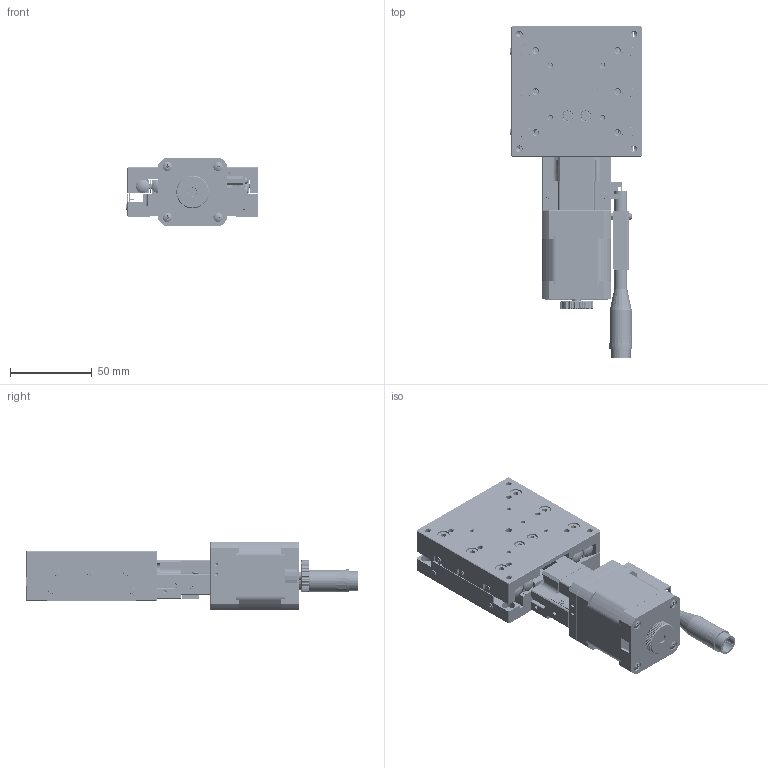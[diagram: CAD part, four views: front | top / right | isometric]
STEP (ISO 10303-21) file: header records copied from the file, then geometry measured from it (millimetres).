
FILE_DESCRIPTION (( 'STEP AP214' ), '1' );
FILE_NAME ('TXA8030B-L2-M42R.STEP', '2025-01-03T10:57:27', ( '' ), ( '' ), 'SwSTEP 2.0', 'SolidWorks 2020', '' );
FILE_SCHEMA (( 'AUTOMOTIVE_DESIGN' ));
Length unit declared in the file: millimetre
Products named in the file (1): TXA8030B-L2-M42R
Bounding box: 80.71 x 202.75 x 42.13 mm (x, y, z)
Volume: 239279.2 mm3; surface area: 118719.4 mm2
Topology: 75 solids, 75 shells, 4496 faces, 10980 edges, 6744 vertices
Faces by surface type: cone 1694, plane 1690, cylinder 806, bspline 154, torus 144, sphere 8
Entity records: 193311 total; most frequent: CARTESIAN_POINT 36145, DIRECTION 22907, ORIENTED_EDGE 21852, EDGE_CURVE 10926, AXIS2_PLACEMENT_3D 8424, VERTEX_POINT 6744, VECTOR 6059, LINE 6059
